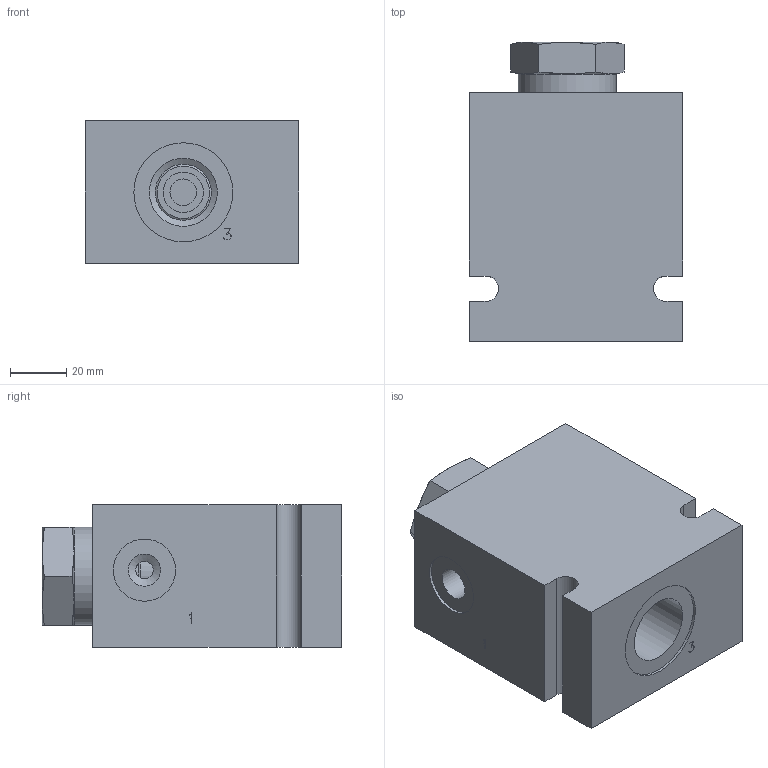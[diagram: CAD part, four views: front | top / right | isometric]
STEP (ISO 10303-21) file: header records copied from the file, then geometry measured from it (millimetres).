
FILE_DESCRIPTION( ( 'Unknown' ), '1' );
FILE_NAME( 'G:/Graphic Design/Graphic Design 2/Data Sheets/PRESSURE CONTROLS/2_STEP/Pressure Compensated Regulator Valves/D-TRPCC00-D3.stp', 'Unknown', ( 'Unknown' ), ( 'Unknown' ), 'PSStep 16.0.42', 'Unknown', ' ' );
FILE_SCHEMA( ( 'AUTOMOTIVE_DESIGN { 1 0 10303 214 1 1 1 1 }' ) );
Length unit declared in the file: millimetre
Products named in the file (9): TRPCC00; Part62_0; Part64_0; Part66_0; Part68_0; Part70_0; Part72_0; Assem1; B-DTRD3
Assembly tree (8 placements, depth 3):
  Assem1
    B-DTRD3
    TRPCC00
      Part62_0
      Part64_0
      Part66_0
      Part68_0
      Part70_0
      Part72_0
Bounding box: 76.2 x 106.9 x 50.8 mm (x, y, z)
Surface area: 53377.6 mm2 (no closed solid volume)
Topology: 0 solids, 221 shells, 221 faces, 927 edges, 835 vertices
Faces by surface type: plane 114, cylinder 76, cone 27, torus 4
Full cylindrical faces by diameter (mm): 0.2 x3, 1.524 x1, 4.775 x16, 6.3 x1, 9.525 x1, 11.5 x2, 12 x1, 14.295 x1, 18.085 x1, 18.136 x1, 18.237 x1, 19.66 x1, 19.71 x1, 20 x1, 20.625 x1, 22.149 x2, 22.22 x1, 22.25 x1, 22.26 x1, 22.454 x1, 23.419 x1, 23.724 x2, 23.825 x1, 23.83 x1, 23.84 x1, 24.003 x1, 24.028 x1, 24.3 x4, 24.689 x1, 24.696 x2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
Entity records: 14212 total; most frequent: CARTESIAN_POINT 6242, DIRECTION 1092, VERTEX_POINT 801, ORIENTED_EDGE 798, EDGE_CURVE 798, AXIS2_PLACEMENT_3D 441, B_SPLINE_CURVE_WITH_KNOTS 354, FACE_BOUND 348
